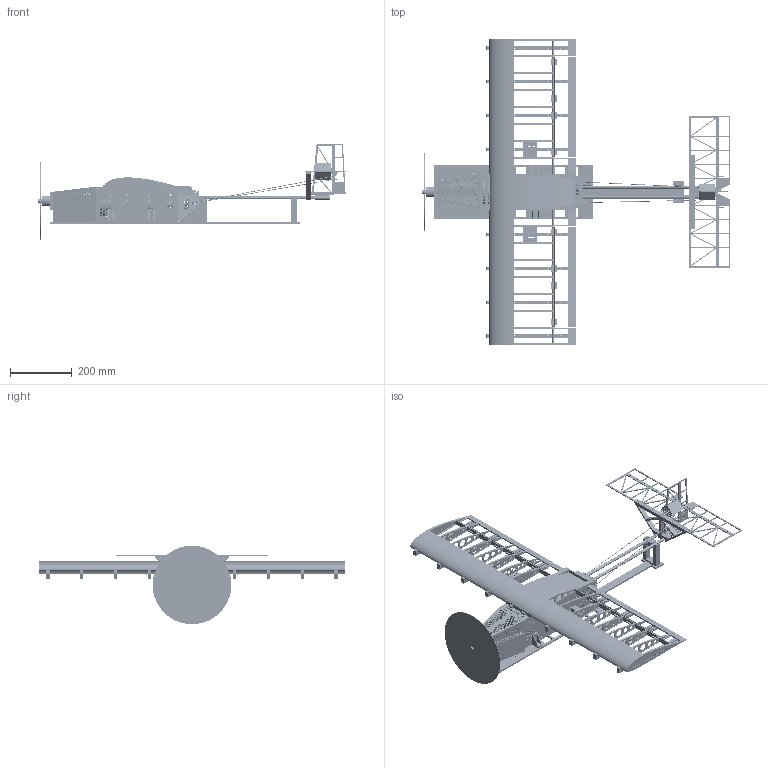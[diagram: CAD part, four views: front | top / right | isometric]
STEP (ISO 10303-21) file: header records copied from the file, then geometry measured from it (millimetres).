
FILE_DESCRIPTION(/* description */ (''),/* implementation_level */ '2;1');
FILE_NAME(/* name */ 'WaterDrop_revB_fusion.step',/* time_stamp */ '2026-11-26T20:58:24+05:30',/* author */ (''),/* organization */ (''),/* preprocessor_version */ 'ST-DEVELOPER v20.2',/* originating_system */ 'Autodesk Translation Framework v15.17.0.0',/* authorisation */ '');
FILE_SCHEMA (('AUTOMOTIVE_DESIGN { 1 0 10303 214 3 1 1 }'));
Products named in the file (411): 2026-11-26-18-09-39-258; 2026-11-26-18-09-40-135; 2026-11-26-18-09-40-183; 2026-11-26-18-09-41-149; 2026-11-26-18-09-41-160; 2026-11-26-18-09-43-562; 2026-11-26-18-09-44-079; 2026-11-26-18-09-45-384; 2026-11-26-18-09-46-499; 2026-11-26-18-09-47-942; 2026-11-26-18-09-48-718; 2026-11-26-18-09-49-398; 2026-11-26-18-09-51-377; 2026-11-26-18-09-52-399; 2026-11-26-18-09-54-298; 2026-11-26-18-09-55-817; 2026-11-26-18-09-57-114; 2026-11-26-18-09-58-223; 2026-11-26-18-09-59-682; 2026-11-26-18-10-01-914; 2026-11-26-18-10-03-767; 2026-11-26-18-10-05-647; 2026-11-26-18-10-07-133; 2026-11-26-18-10-09-463; 2026-11-26-18-10-13-279; 2026-11-26-18-10-15-576; 2026-11-26-18-10-18-332; 2026-11-26-18-10-21-815; 2026-11-26-18-10-29-402; 2026-11-26-18-10-31-937; 2026-11-26-18-10-36-401; 2026-11-26-18-10-38-940; 2026-11-26-18-10-42-134; 2026-11-26-18-10-44-331; 2026-11-26-18-10-48-532; 2026-11-26-18-10-52-482; 2026-11-26-18-10-55-890; 2026-11-26-18-10-58-310; 2026-11-26-18-11-02-304; 2026-11-26-18-11-02-464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
Assembly tree (410 placements, depth 5):
  2026-11-26-18-09-39-258
    2026-11-26-18-09-40-135
      2026-11-26-18-09-40-183
        2026-11-26-18-09-41-149
          2026-11-26-18-09-41-160
          2026-11-26-18-09-43-562
          2026-11-26-18-09-44-079
          2026-11-26-18-09-45-384
          2026-11-26-18-09-46-499
          2026-11-26-18-09-47-942
          2026-11-26-18-09-48-718
          2026-11-26-18-09-49-398
          2026-11-26-18-09-51-377
          2026-11-26-18-09-52-399
          2026-11-26-18-09-54-298
          2026-11-26-18-09-55-817
          2026-11-26-18-09-57-114
          2026-11-26-18-09-58-223
          2026-11-26-18-09-59-682
          2026-11-26-18-10-01-914
          2026-11-26-18-10-03-767
          2026-11-26-18-10-05-647
          2026-11-26-18-10-07-133
          2026-11-26-18-10-09-463
          2026-11-26-18-10-13-279
          2026-11-26-18-10-15-576
          2026-11-26-18-10-18-332
          2026-11-26-18-10-21-815
          2026-11-26-18-10-29-402
          2026-11-26-18-10-31-937
          2026-11-26-18-10-36-401
          2026-11-26-18-10-38-940
          2026-11-26-18-10-42-134
          2026-11-26-18-10-44-331
          2026-11-26-18-10-48-532
          2026-11-26-18-10-52-482
          2026-11-26-18-10-55-890
          2026-11-26-18-10-58-310
        2026-11-26-18-11-02-304
          2026-11-26-18-11-02-464
          2026-11-26-18-11-05-591
          2026-11-26-18-11-10-048
          2026-11-26-18-11-14-687
          2026-11-26-18-11-19-345
          2026-11-26-18-11-25-064
          2026-11-26-18-11-28-029
        2026-11-26-18-11-32-879
          2026-11-26-18-11-33-074
          2026-11-26-18-11-44-788
          2026-11-26-18-11-57-967
          2026-11-26-18-12-14-928
          2026-11-26-18-12-51-475
          2026-11-26-18-13-14-380
          2026-11-26-18-13-39-132
          2026-11-26-18-14-28-607
          2026-11-26-18-15-14-929
        2026-11-26-18-15-33-103
          2026-11-26-18-15-33-536
          2026-11-26-18-15-57-362
          2026-11-26-18-16-21-366
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Bounding box: 996 x 990 x 312 mm (x, y, z)
Volume: 3279426.9 mm3; surface area: 3038599 mm2
Topology: 453 solids, 453 shells, 59594 faces, 169503 edges, 112978 vertices
Faces by surface type: plane 43727, bspline 15496, cylinder 365, cone 6
Full cylindrical faces by diameter (mm): 1.2 x2, 1.4 x4, 1.5 x10, 2.1 x48, 3.2 x8, 4.2 x8, 4.5 x40, 4.8 x4, 6.1 x40, 7 x4, 7.574 x4, 8 x6, 10 x2, 10.3 x24, 10.571 x20, 12 x5, 16.826 x14, 17.167 x20, 17.4 x1, 21 x1, 21.6 x1, 21.7 x1, 22.905 x14, 25.992 x20, 26 x14, 50 x2, 79.4 x1, 80 x1
Entity records: 1944798 total; most frequent: CARTESIAN_POINT 483161, ORIENTED_EDGE 339006, DIRECTION 229040, EDGE_CURVE 169503, LINE 137522, VECTOR 137522, VERTEX_POINT 112978, EDGE_LOOP 63937
